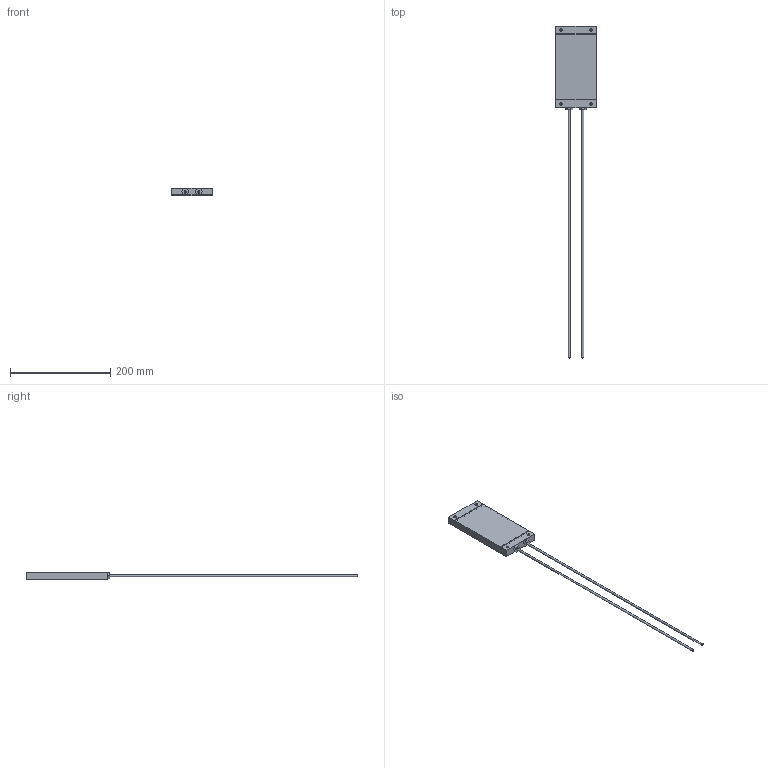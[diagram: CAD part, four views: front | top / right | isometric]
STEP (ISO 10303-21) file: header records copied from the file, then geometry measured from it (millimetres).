
FILE_DESCRIPTION(/* description */ (''),/* implementation_level */ '2;1');
FILE_NAME(/* name */ 'C:\_Vault\Dati\CATALOGO\RFK\Disegni catalogo\RFK350.stp',/* time_stamp */ '2014-03-27T18:28:32+01:00',/* author */ ('stefano'),/* organization */ (''),/* preprocessor_version */ 'ST-DEVELOPER v15.2',/* originating_system */ 'Autodesk Inventor 2014',/* authorisation */ '');
FILE_SCHEMA (('AUTOMOTIVE_DESIGN { 1 0 10303 214 3 1 1 }'));
Length unit declared in the file: millimetre
Products named in the file (1): RFK350
Bounding box: 80 x 663.2 x 15 mm (x, y, z)
Volume: 91009.8 mm3; surface area: 80699.5 mm2
Topology: 3 solids, 3 shells, 118 faces, 302 edges, 204 vertices
Faces by surface type: plane 96, cylinder 20, cone 2
Full cylindrical faces by diameter (mm): 4.1 x2, 4.5 x2, 5 x8, 6 x4, 7 x2, 8.917 x2
Entity records: 3534 total; most frequent: CARTESIAN_POINT 579, DIRECTION 546, ORIENTED_EDGE 536, EDGE_CURVE 268, LINE 228, VECTOR 228, VERTEX_POINT 192, EDGE_LOOP 176
